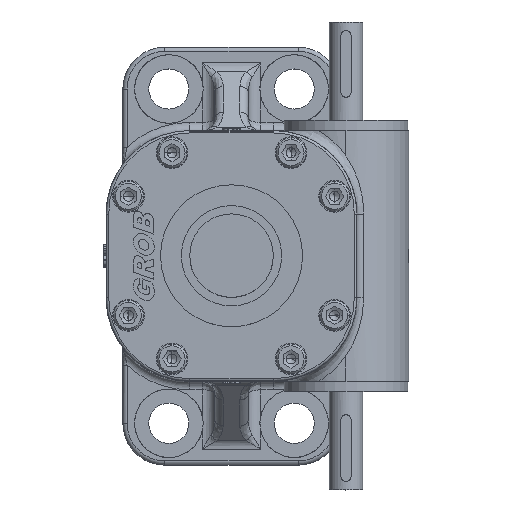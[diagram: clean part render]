
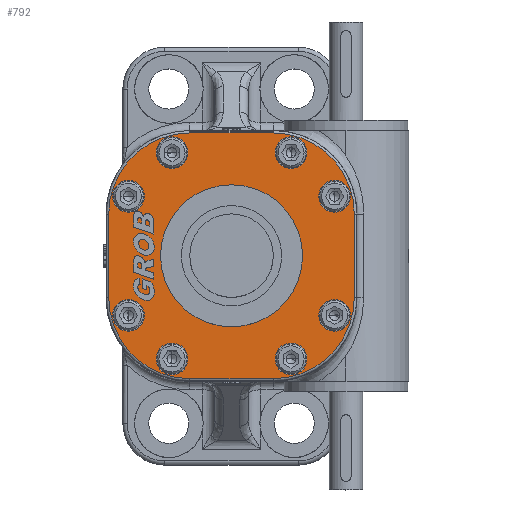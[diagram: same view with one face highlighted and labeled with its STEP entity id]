
A CAD part, top view. The second image highlights one B-rep face of the part: STEP entity #792.
In plain terms, the highlighted planar face has unit normal (0, 0, 1).
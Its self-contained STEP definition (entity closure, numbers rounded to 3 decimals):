
#792=ADVANCED_FACE('',(#2768,#2769,#2770,#2771,#2772,#2773,#2774,#2775,#2776),#2777,.F.);
#2768=FACE_OUTER_BOUND('',#8316,.T.);
#2769=FACE_BOUND('',#8317,.T.);
#2770=FACE_BOUND('',#8318,.T.);
#2771=FACE_BOUND('',#8319,.T.);
#2772=FACE_BOUND('',#8320,.T.);
#2773=FACE_BOUND('',#8321,.T.);
#2774=FACE_BOUND('',#8322,.T.);
#2775=FACE_BOUND('',#8323,.T.);
#2776=FACE_BOUND('',#8324,.T.);
#2777=PLANE('',#8325);
#8316=EDGE_LOOP('',(#13566,#13567,#13568,#13569,#13570,#13571,#13572,#13573));
#8317=EDGE_LOOP('',(#13574,#13575));
#8318=EDGE_LOOP('',(#13576,#13577));
#8319=EDGE_LOOP('',(#13578,#13579));
#8320=EDGE_LOOP('',(#13580,#13581));
#8321=EDGE_LOOP('',(#13582,#13583));
#8322=EDGE_LOOP('',(#13584,#13585));
#8323=EDGE_LOOP('',(#13586,#13587));
#8324=EDGE_LOOP('',(#13588,#13589));
#8325=AXIS2_PLACEMENT_3D('',#13590,#13591,#13592);
#13566=ORIENTED_EDGE('',*,*,#22545,.F.);
#13567=ORIENTED_EDGE('',*,*,#22557,.F.);
#13568=ORIENTED_EDGE('',*,*,#22541,.F.);
#13569=ORIENTED_EDGE('',*,*,#22558,.F.);
#13570=ORIENTED_EDGE('',*,*,#22533,.F.);
#13571=ORIENTED_EDGE('',*,*,#22559,.F.);
#13572=ORIENTED_EDGE('',*,*,#22537,.F.);
#13573=ORIENTED_EDGE('',*,*,#22560,.F.);
#13574=ORIENTED_EDGE('',*,*,#22561,.T.);
#13575=ORIENTED_EDGE('',*,*,#22528,.T.);
#13576=ORIENTED_EDGE('',*,*,#22562,.T.);
#13577=ORIENTED_EDGE('',*,*,#22520,.T.);
#13578=ORIENTED_EDGE('',*,*,#22563,.T.);
#13579=ORIENTED_EDGE('',*,*,#22512,.T.);
#13580=ORIENTED_EDGE('',*,*,#22564,.T.);
#13581=ORIENTED_EDGE('',*,*,#22504,.T.);
#13582=ORIENTED_EDGE('',*,*,#22565,.T.);
#13583=ORIENTED_EDGE('',*,*,#22496,.T.);
#13584=ORIENTED_EDGE('',*,*,#22566,.T.);
#13585=ORIENTED_EDGE('',*,*,#22488,.T.);
#13586=ORIENTED_EDGE('',*,*,#22567,.T.);
#13587=ORIENTED_EDGE('',*,*,#22480,.T.);
#13588=ORIENTED_EDGE('',*,*,#22568,.T.);
#13589=ORIENTED_EDGE('',*,*,#22472,.T.);
#13590=CARTESIAN_POINT('',(0.,0.,259.7));
#13591=DIRECTION('',(0.0,0.,-1.0));
#13592=DIRECTION('',(1.0,0.0,0.0));
#22472=EDGE_CURVE('',#26477,#26474,#26478,.T.);
#22480=EDGE_CURVE('',#26493,#26490,#26494,.T.);
#22488=EDGE_CURVE('',#26509,#26506,#26510,.T.);
#22496=EDGE_CURVE('',#26525,#26522,#26526,.T.);
#22504=EDGE_CURVE('',#26541,#26538,#26542,.T.);
#22512=EDGE_CURVE('',#26557,#26554,#26558,.T.);
#22520=EDGE_CURVE('',#26573,#26570,#26574,.T.);
#22528=EDGE_CURVE('',#26589,#26586,#26590,.T.);
#22533=EDGE_CURVE('',#26597,#26599,#26600,.T.);
#22537=EDGE_CURVE('',#26605,#26607,#26608,.T.);
#22541=EDGE_CURVE('',#26613,#26615,#26616,.T.);
#22545=EDGE_CURVE('',#26621,#26623,#26624,.T.);
#22557=EDGE_CURVE('',#26615,#26621,#26642,.T.);
#22558=EDGE_CURVE('',#26599,#26613,#26643,.T.);
#22559=EDGE_CURVE('',#26607,#26597,#26644,.T.);
#22560=EDGE_CURVE('',#26623,#26605,#26645,.T.);
#22561=EDGE_CURVE('',#26586,#26589,#26646,.T.);
#22562=EDGE_CURVE('',#26570,#26573,#26647,.T.);
#22563=EDGE_CURVE('',#26554,#26557,#26648,.T.);
#22564=EDGE_CURVE('',#26538,#26541,#26649,.T.);
#22565=EDGE_CURVE('',#26522,#26525,#26650,.T.);
#22566=EDGE_CURVE('',#26506,#26509,#26651,.T.);
#22567=EDGE_CURVE('',#26490,#26493,#26652,.T.);
#22568=EDGE_CURVE('',#26474,#26477,#26653,.T.);
#26474=VERTEX_POINT('',#36368);
#26477=VERTEX_POINT('',#36372);
#26478=CIRCLE('',#36373,19.0);
#26490=VERTEX_POINT('',#36388);
#26493=VERTEX_POINT('',#36392);
#26494=CIRCLE('',#36393,19.0);
#26506=VERTEX_POINT('',#36408);
#26509=VERTEX_POINT('',#36412);
#26510=CIRCLE('',#36413,19.0);
#26522=VERTEX_POINT('',#36428);
#26525=VERTEX_POINT('',#36432);
#26526=CIRCLE('',#36433,19.0);
#26538=VERTEX_POINT('',#36448);
#26541=VERTEX_POINT('',#36452);
#26542=CIRCLE('',#36453,19.0);
#26554=VERTEX_POINT('',#36468);
#26557=VERTEX_POINT('',#36472);
#26558=CIRCLE('',#36473,19.0);
#26570=VERTEX_POINT('',#36488);
#26573=VERTEX_POINT('',#36492);
#26574=CIRCLE('',#36493,19.0);
#26586=VERTEX_POINT('',#36508);
#26589=VERTEX_POINT('',#36512);
#26590=CIRCLE('',#36513,19.0);
#26597=VERTEX_POINT('',#36522);
#26599=VERTEX_POINT('',#36524);
#26600=LINE('',#36525,#36526);
#26605=VERTEX_POINT('',#36532);
#26607=VERTEX_POINT('',#36534);
#26608=LINE('',#36535,#36536);
#26613=VERTEX_POINT('',#36542);
#26615=VERTEX_POINT('',#36544);
#26616=LINE('',#36545,#36546);
#26621=VERTEX_POINT('',#36552);
#26623=VERTEX_POINT('',#36554);
#26624=LINE('',#36555,#36556);
#26642=CIRCLE('',#36578,97.0);
#26643=CIRCLE('',#36579,97.0);
#26644=CIRCLE('',#36580,97.);
#26645=CIRCLE('',#36581,97.0);
#26646=CIRCLE('',#36582,19.0);
#26647=CIRCLE('',#36583,19.0);
#26648=CIRCLE('',#36584,19.0);
#26649=CIRCLE('',#36585,19.0);
#26650=CIRCLE('',#36586,19.0);
#26651=CIRCLE('',#36587,19.0);
#26652=CIRCLE('',#36588,19.0);
#26653=CIRCLE('',#36589,19.0);
#36368=CARTESIAN_POINT('',(104.409,-71.25,259.7));
#36372=CARTESIAN_POINT('',(142.409,-71.25,259.7));
#36373=AXIS2_PLACEMENT_3D('',#45271,#45272,#45273);
#36388=CARTESIAN_POINT('',(52.25,-123.409,259.7));
#36392=CARTESIAN_POINT('',(90.25,-123.409,259.7));
#36393=AXIS2_PLACEMENT_3D('',#45287,#45288,#45289);
#36408=CARTESIAN_POINT('',(104.409,71.25,259.7));
#36412=CARTESIAN_POINT('',(142.409,71.25,259.7));
#36413=AXIS2_PLACEMENT_3D('',#45303,#45304,#45305);
#36428=CARTESIAN_POINT('',(52.25,123.409,259.7));
#36432=CARTESIAN_POINT('',(90.25,123.409,259.7));
#36433=AXIS2_PLACEMENT_3D('',#45319,#45320,#45321);
#36448=CARTESIAN_POINT('',(-142.409,71.25,259.7));
#36452=CARTESIAN_POINT('',(-104.409,71.25,259.7));
#36453=AXIS2_PLACEMENT_3D('',#45335,#45336,#45337);
#36468=CARTESIAN_POINT('',(-90.25,-123.409,259.7));
#36472=CARTESIAN_POINT('',(-52.25,-123.409,259.7));
#36473=AXIS2_PLACEMENT_3D('',#45351,#45352,#45353);
#36488=CARTESIAN_POINT('',(-142.409,-71.25,259.7));
#36492=CARTESIAN_POINT('',(-104.409,-71.25,259.7));
#36493=AXIS2_PLACEMENT_3D('',#45367,#45368,#45369);
#36508=CARTESIAN_POINT('',(-90.25,123.409,259.7));
#36512=CARTESIAN_POINT('',(-52.25,123.409,259.7));
#36513=AXIS2_PLACEMENT_3D('',#45383,#45384,#45385);
#36522=CARTESIAN_POINT('',(-147.0,-50.,259.7));
#36524=CARTESIAN_POINT('',(-147.0,50.,259.7));
#36525=CARTESIAN_POINT('',(-147.0,25.,259.7));
#36526=VECTOR('',#45394,10.0);
#36532=CARTESIAN_POINT('',(50.0,-147.,259.7));
#36534=CARTESIAN_POINT('',(-50.,-147.,259.7));
#36535=CARTESIAN_POINT('',(-25.,-147.,259.7));
#36536=VECTOR('',#45402,10.0);
#36542=CARTESIAN_POINT('',(-50.,147.,259.7));
#36544=CARTESIAN_POINT('',(50.0,147.,259.7));
#36545=CARTESIAN_POINT('',(25.,147.,259.7));
#36546=VECTOR('',#45410,10.0);
#36552=CARTESIAN_POINT('',(147.0,50.,259.7));
#36554=CARTESIAN_POINT('',(147.0,-50.,259.7));
#36555=CARTESIAN_POINT('',(147.0,-25.,259.7));
#36556=VECTOR('',#45418,10.0);
#36578=AXIS2_PLACEMENT_3D('',#45444,#45445,#45446);
#36579=AXIS2_PLACEMENT_3D('',#45447,#45448,#45449);
#36580=AXIS2_PLACEMENT_3D('',#45450,#45451,#45452);
#36581=AXIS2_PLACEMENT_3D('',#45453,#45454,#45455);
#36582=AXIS2_PLACEMENT_3D('',#45456,#45457,#45458);
#36583=AXIS2_PLACEMENT_3D('',#45459,#45460,#45461);
#36584=AXIS2_PLACEMENT_3D('',#45462,#45463,#45464);
#36585=AXIS2_PLACEMENT_3D('',#45465,#45466,#45467);
#36586=AXIS2_PLACEMENT_3D('',#45468,#45469,#45470);
#36587=AXIS2_PLACEMENT_3D('',#45471,#45472,#45473);
#36588=AXIS2_PLACEMENT_3D('',#45474,#45475,#45476);
#36589=AXIS2_PLACEMENT_3D('',#45477,#45478,#45479);
#45271=CARTESIAN_POINT('',(123.409,-71.25,259.7));
#45272=DIRECTION('',(-0.0,0.,-1.0));
#45273=DIRECTION('',(-1.0,0.0,0.0));
#45287=CARTESIAN_POINT('',(71.25,-123.409,259.7));
#45288=DIRECTION('',(-0.0,0.,-1.0));
#45289=DIRECTION('',(-1.0,0.0,0.0));
#45303=CARTESIAN_POINT('',(123.409,71.25,259.7));
#45304=DIRECTION('',(-0.0,0.,-1.0));
#45305=DIRECTION('',(-1.0,0.0,0.0));
#45319=CARTESIAN_POINT('',(71.25,123.409,259.7));
#45320=DIRECTION('',(-0.0,0.,-1.0));
#45321=DIRECTION('',(-1.0,0.0,0.0));
#45335=CARTESIAN_POINT('',(-123.409,71.25,259.7));
#45336=DIRECTION('',(-0.0,0.,-1.0));
#45337=DIRECTION('',(-1.0,0.0,0.0));
#45351=CARTESIAN_POINT('',(-71.25,-123.409,259.7));
#45352=DIRECTION('',(-0.0,0.,-1.0));
#45353=DIRECTION('',(-1.0,0.0,0.0));
#45367=CARTESIAN_POINT('',(-123.409,-71.25,259.7));
#45368=DIRECTION('',(-0.0,0.,-1.0));
#45369=DIRECTION('',(-1.0,0.0,0.0));
#45383=CARTESIAN_POINT('',(-71.25,123.409,259.7));
#45384=DIRECTION('',(-0.0,0.,-1.0));
#45385=DIRECTION('',(-1.0,0.0,0.0));
#45394=DIRECTION('',(0.,1.0,0.));
#45402=DIRECTION('',(-1.0,0.,0.));
#45410=DIRECTION('',(1.0,0.,0.));
#45418=DIRECTION('',(0.0,-1.0,0.));
#45444=CARTESIAN_POINT('',(50.0,50.,259.7));
#45445=DIRECTION('',(0.0,0.,-1.0));
#45446=DIRECTION('',(0.707,0.707,0.));
#45447=CARTESIAN_POINT('',(-50.,50.,259.7));
#45448=DIRECTION('',(0.0,0.,-1.0));
#45449=DIRECTION('',(-0.707,0.707,0.));
#45450=CARTESIAN_POINT('',(-50.,-50.,259.7));
#45451=DIRECTION('',(0.0,0.,-1.0));
#45452=DIRECTION('',(-0.707,-0.707,0.));
#45453=CARTESIAN_POINT('',(50.0,-50.,259.7));
#45454=DIRECTION('',(0.0,0.,-1.0));
#45455=DIRECTION('',(0.707,-0.707,0.));
#45456=CARTESIAN_POINT('',(-71.25,123.409,259.7));
#45457=DIRECTION('',(-0.0,0.,-1.0));
#45458=DIRECTION('',(-1.0,0.0,0.0));
#45459=CARTESIAN_POINT('',(-123.409,-71.25,259.7));
#45460=DIRECTION('',(-0.0,0.,-1.0));
#45461=DIRECTION('',(-1.0,0.0,0.0));
#45462=CARTESIAN_POINT('',(-71.25,-123.409,259.7));
#45463=DIRECTION('',(-0.0,0.,-1.0));
#45464=DIRECTION('',(-1.0,0.0,0.0));
#45465=CARTESIAN_POINT('',(-123.409,71.25,259.7));
#45466=DIRECTION('',(-0.0,0.,-1.0));
#45467=DIRECTION('',(-1.0,0.0,0.0));
#45468=CARTESIAN_POINT('',(71.25,123.409,259.7));
#45469=DIRECTION('',(-0.0,0.,-1.0));
#45470=DIRECTION('',(-1.0,0.0,0.0));
#45471=CARTESIAN_POINT('',(123.409,71.25,259.7));
#45472=DIRECTION('',(-0.0,0.,-1.0));
#45473=DIRECTION('',(-1.0,0.0,0.0));
#45474=CARTESIAN_POINT('',(71.25,-123.409,259.7));
#45475=DIRECTION('',(-0.0,0.,-1.0));
#45476=DIRECTION('',(-1.0,0.0,0.0));
#45477=CARTESIAN_POINT('',(123.409,-71.25,259.7));
#45478=DIRECTION('',(-0.0,0.,-1.0));
#45479=DIRECTION('',(-1.0,0.0,0.0));
